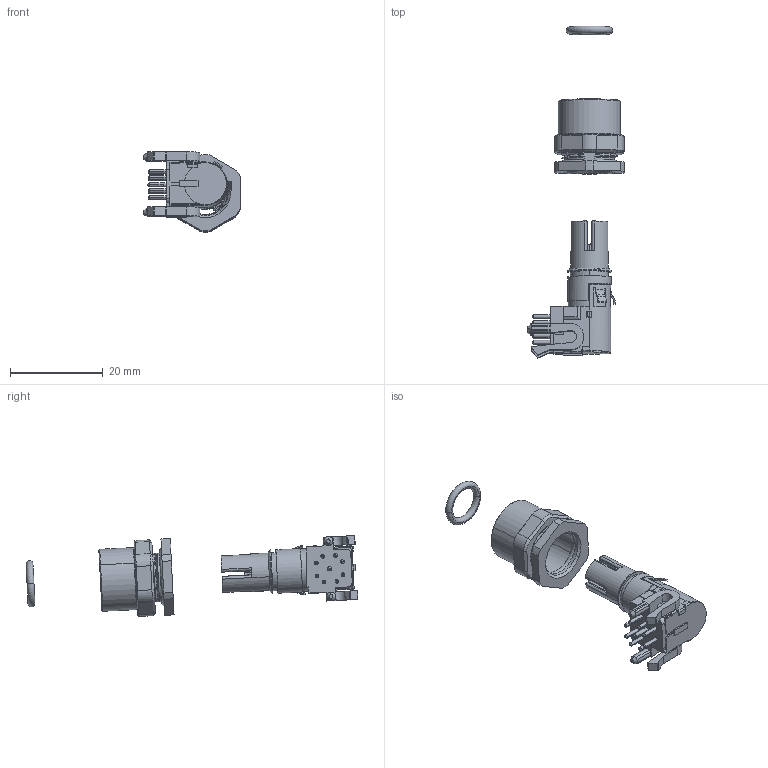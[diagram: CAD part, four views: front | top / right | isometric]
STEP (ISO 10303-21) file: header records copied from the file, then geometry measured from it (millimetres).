
FILE_DESCRIPTION((''),'2;1');
FILE_NAME('MSXS-XXPFFR-SF7004_SW0001','2022-06-21T',('K180137'),(''),'PRO/ENGINEER BY PARAMETRIC TECHNOLOGY CORPORATION, 2013050','PRO/ENGINEER BY PARAMETRIC TECHNOLOGY CORPORATION, 2013050','');
FILE_SCHEMA(('CONFIG_CONTROL_DESIGN'));
Length unit declared in the file: millimetre
Products named in the file (1): MSXS-XXPFFR-SF7004_SW0001
Bounding box: 20.8 x 71.65 x 17.45 mm (x, y, z)
Volume: 3237.6 mm3; surface area: 4647.9 mm2
Topology: 3 solids, 3 shells, 780 faces, 2109 edges, 1378 vertices
Faces by surface type: plane 362, cylinder 256, bspline 79, cone 63, torus 20
Entity records: 36101 total; most frequent: CARTESIAN_POINT 13303, ORIENTED_EDGE 4218, DIRECTION 3866, EDGE_CURVE 2109, VERTEX_POINT 1378, AXIS2_PLACEMENT_3D 1377, VECTOR 1112, LINE 1112
